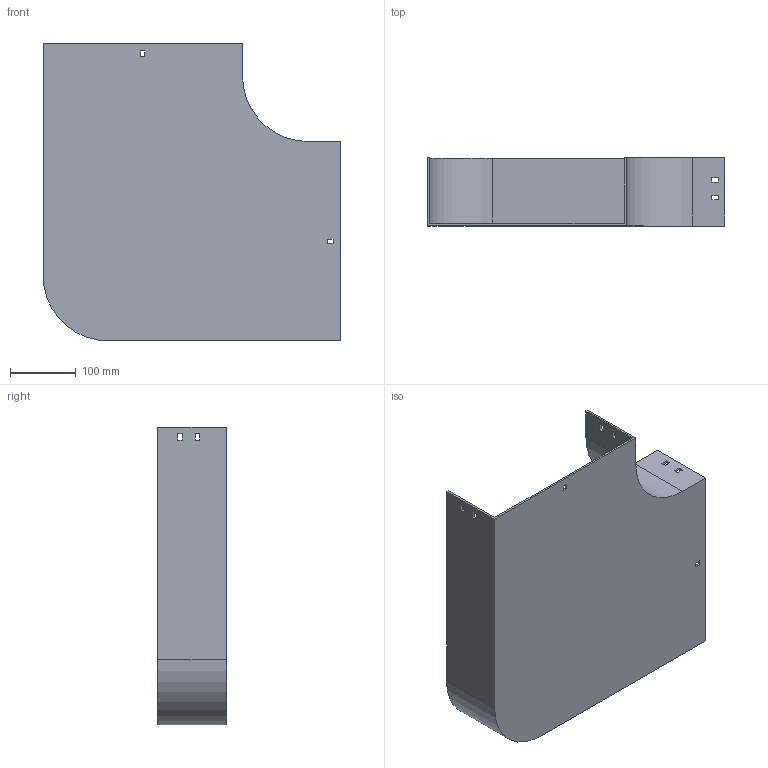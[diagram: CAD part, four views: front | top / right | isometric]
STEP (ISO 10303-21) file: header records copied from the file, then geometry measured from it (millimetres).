
FILE_DESCRIPTION (( 'STEP AP214' ), '1' );
FILE_NAME ('10B1D300.step', '2025-02-21T09:39:39', ( '' ), ( '' ), 'SwSTEP 2.0', 'SolidWorks 2023', '' );
FILE_SCHEMA (( 'AUTOMOTIVE_DESIGN' ));
Length unit declared in the file: millimetre
Products named in the file (1): 10B1D300
Bounding box: 454 x 104 x 454 mm (x, y, z)
Volume: 1035006 mm3; surface area: 600063.6 mm2
Topology: 1 solids, 1 shells, 58 faces, 168 edges, 112 vertices
Faces by surface type: plane 54, cylinder 4
Entity records: 1943 total; most frequent: CARTESIAN_POINT 339, ORIENTED_EDGE 336, DIRECTION 294, EDGE_CURVE 168, VECTOR 160, LINE 160, VERTEX_POINT 112, EDGE_LOOP 78
